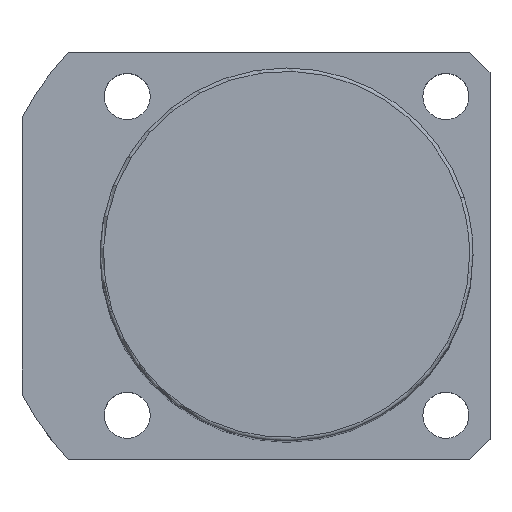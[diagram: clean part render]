
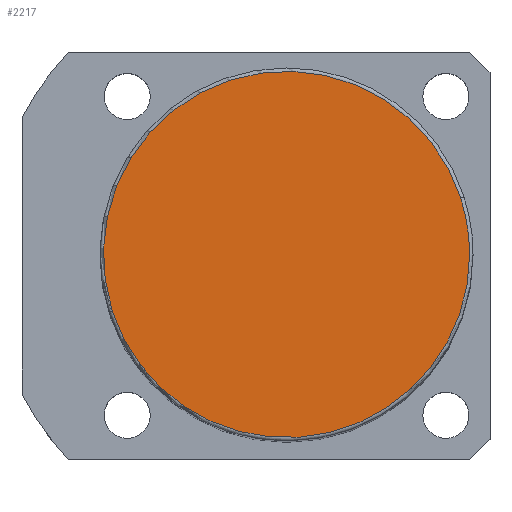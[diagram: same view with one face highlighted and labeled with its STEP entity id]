
A CAD part, top view. The second image highlights one B-rep face of the part: STEP entity #2217.
In plain terms, the highlighted planar face has unit normal (0, 0, 1).
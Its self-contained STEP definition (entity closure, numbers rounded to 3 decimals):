
#2150=CARTESIAN_POINT('',(25.679,8.343,131.0));
#2151=VERTEX_POINT('',#2150);
#2169=CARTESIAN_POINT('',(-25.679,-8.343,131.0));
#2170=VERTEX_POINT('',#2169);
#2178=CARTESIAN_POINT('',(0.0,0.0,131.0));
#2179=DIRECTION('',(0.0,0.0,1.0));
#2180=DIRECTION('',(1.0,0.0,0.0));
#2181=AXIS2_PLACEMENT_3D('',#2178,#2179,#2180);
#2182=CIRCLE('',#2181,27.0);
#2183=EDGE_CURVE('no 2208',#2151,#2170,#2182,.T.);
#2193=CARTESIAN_POINT('',(27.0,0.0,131.0));
#2194=VERTEX_POINT('',#2193);
#2195=CARTESIAN_POINT('',(0.0,0.0,131.0));
#2196=DIRECTION('',(0.0,0.0,1.0));
#2197=DIRECTION('',(1.0,0.0,0.0));
#2198=AXIS2_PLACEMENT_3D('',#2195,#2196,#2197);
#2199=CIRCLE('',#2198,27.0);
#2200=EDGE_CURVE('no 2217',#2194,#2151,#2199,.T.);
#2201=ORIENTED_EDGE('',*,*,#2200,.T.);
#2202=ORIENTED_EDGE('',*,*,#2183,.T.);
#2203=CARTESIAN_POINT('',(0.0,0.0,131.0));
#2204=DIRECTION('',(0.0,0.0,1.0));
#2205=DIRECTION('',(1.0,0.0,0.0));
#2206=AXIS2_PLACEMENT_3D('',#2203,#2204,#2205);
#2207=CIRCLE('',#2206,27.0);
#2208=EDGE_CURVE('no 2223',#2170,#2194,#2207,.T.);
#2209=ORIENTED_EDGE('',*,*,#2208,.T.);
#2210=EDGE_LOOP('',(#2201,#2202,#2209));
#2211=FACE_OUTER_BOUND('',#2210,.T.);
#2212=CARTESIAN_POINT('',(0.0,0.0,131.0));
#2213=DIRECTION('',(0.0,0.0,1.0));
#2214=DIRECTION('',(1.0,0.0,0.0));
#2215=AXIS2_PLACEMENT_3D('',#2212,#2213,#2214);
#2216=PLANE('',#2215);
#2217=ADVANCED_FACE('no 2210',(#2211),#2216,.T.);
